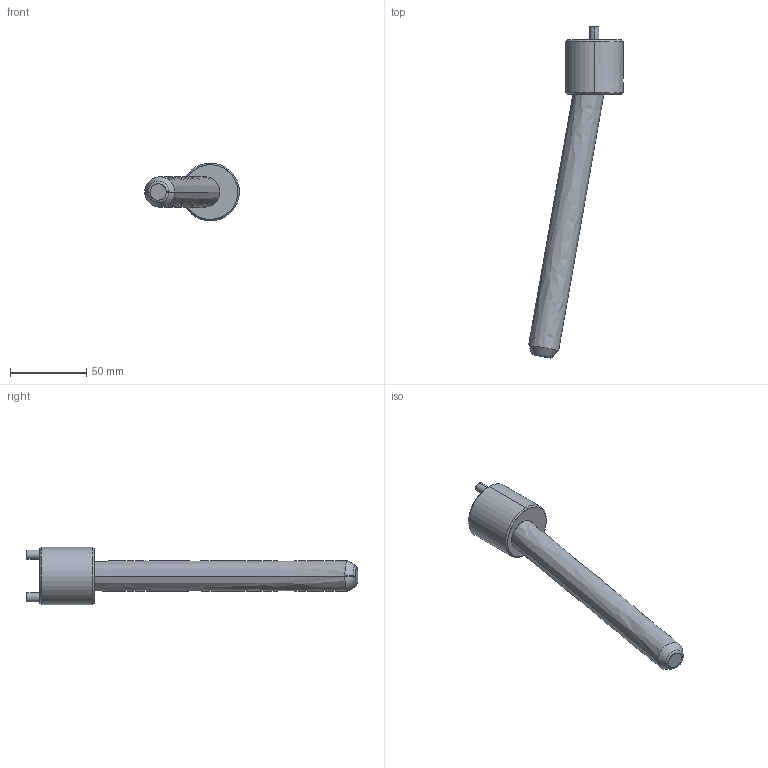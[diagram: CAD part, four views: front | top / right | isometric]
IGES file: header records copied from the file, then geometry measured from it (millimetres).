
Start section: START RECORD GO HERE.
Global section: file name: CI1020175.igs; native system: DASSAULT SYSTEMES CATIA V5 R20 - www.3ds.com; preprocessor: CATIA Version 5 Release 20 ; author: r.borello; organization: CFTORINO; date: 20190621.155627; units: millimetre
Bounding box: 62.19 x 218.31 x 38 mm (x, y, z)
Surface area: 22166.6 mm2 (no closed solid volume)
Topology: 0 solids, 0 shells, 39 faces, 162 edges, 160 vertices
Faces by surface type: revolution 32, plane 7
